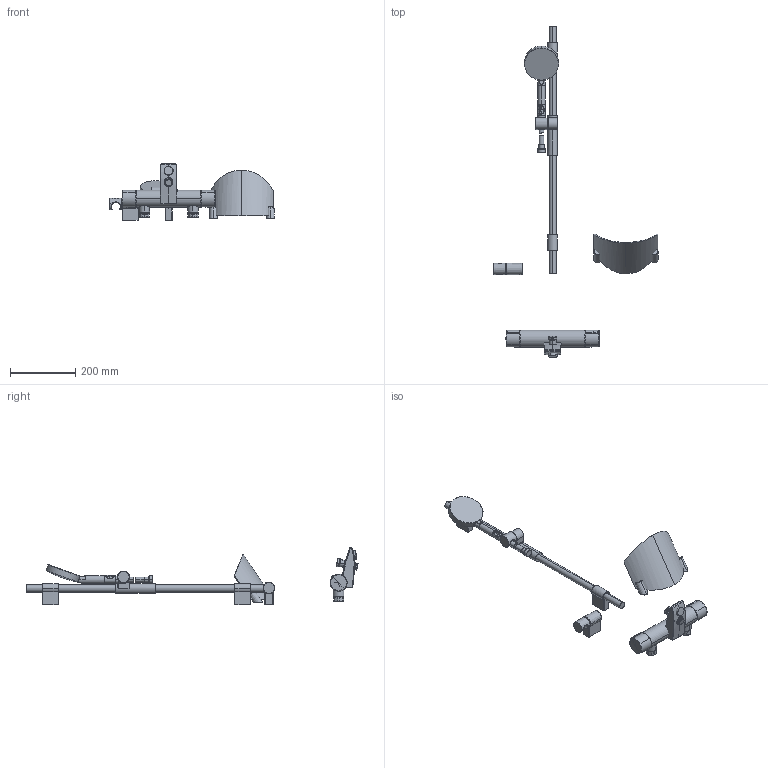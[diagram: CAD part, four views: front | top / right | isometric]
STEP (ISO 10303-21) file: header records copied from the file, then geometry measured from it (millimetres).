
FILE_DESCRIPTION (( 'STEP AP203' ), '1' );
FILE_NAME ('2879.STEP', '2018-07-05T10:51:58', ( '' ), ( '' ), 'SwSTEP 2.0', 'SolidWorks 2016', '' );
FILE_SCHEMA (( 'CONFIG_CONTROL_DESIGN' ));
Length unit declared in the file: millimetre
Products named in the file (1): 2879
Bounding box: 506 x 1020.7 x 176.19 mm (x, y, z)
Volume: 2020164.6 mm3; surface area: 340956.8 mm2
Topology: 25 solids, 25 shells, 619 faces, 1379 edges, 817 vertices
Faces by surface type: bspline 154, cylinder 147, plane 138, torus 94, cone 68, sphere 18
Entity records: 26852 total; most frequent: CARTESIAN_POINT 14287, ORIENTED_EDGE 2726, DIRECTION 2440, EDGE_CURVE 1363, AXIS2_PLACEMENT_3D 1052, VERTEX_POINT 817, EDGE_LOOP 642, ADVANCED_FACE 619
